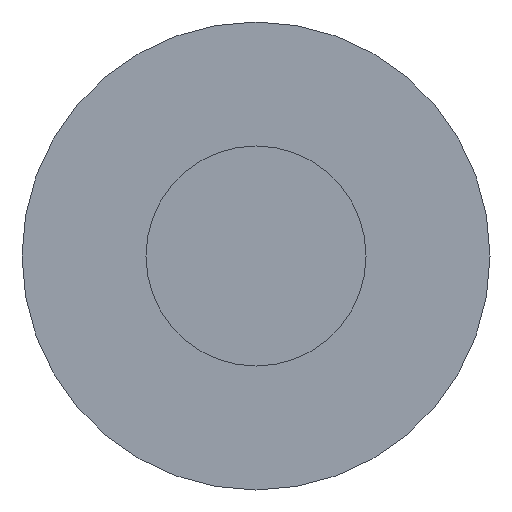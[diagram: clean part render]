
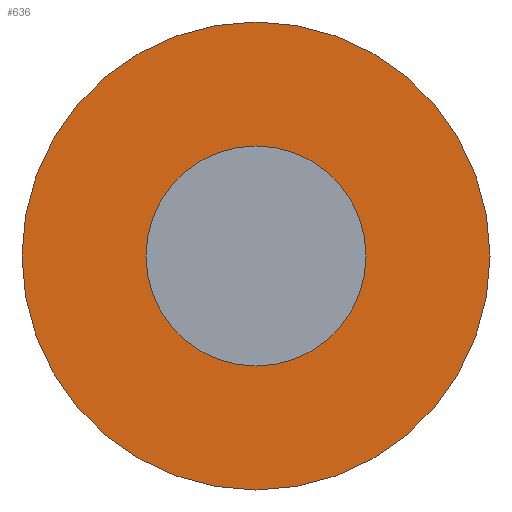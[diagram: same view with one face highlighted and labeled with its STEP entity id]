
A CAD part, front view. The second image highlights one B-rep face of the part: STEP entity #636.
In plain terms, the highlighted planar face has unit normal (0, -1, 0).
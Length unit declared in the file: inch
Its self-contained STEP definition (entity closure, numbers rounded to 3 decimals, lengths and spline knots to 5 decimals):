
#213=CARTESIAN_POINT('',(0.,-0.015,0.));
#214=DIRECTION('',(0.,-1.,0.));
#215=DIRECTION('',(1.,0.,0.));
#216=AXIS2_PLACEMENT_3D('',#213,#214,#215);
#218=CARTESIAN_POINT('',(0.,-0.015,0.));
#219=DIRECTION('',(0.,-1.,0.));
#220=DIRECTION('',(-1.,0.,0.));
#221=AXIS2_PLACEMENT_3D('',#218,#219,#220);
#223=CARTESIAN_POINT('',(0.,-0.015,0.));
#224=DIRECTION('',(0.,-1.,0.));
#225=DIRECTION('',(1.,0.,0.));
#226=AXIS2_PLACEMENT_3D('',#223,#224,#225);
#228=CARTESIAN_POINT('',(0.,-0.015,0.));
#229=DIRECTION('',(0.,-1.,0.));
#230=DIRECTION('',(-1.,0.,0.));
#231=AXIS2_PLACEMENT_3D('',#228,#229,#230);
#577=CARTESIAN_POINT('',(0.202,-0.015,0.));
#578=CARTESIAN_POINT('',(-0.202,-0.015,0.));
#579=VERTEX_POINT('',#577);
#580=VERTEX_POINT('',#578);
#581=CARTESIAN_POINT('',(0.095,-0.015,0.));
#582=CARTESIAN_POINT('',(-0.095,-0.015,0.));
#583=VERTEX_POINT('',#581);
#584=VERTEX_POINT('',#582);
#620=CARTESIAN_POINT('',(0.,-0.015,0.));
#621=DIRECTION('',(0.,-1.,0.));
#622=DIRECTION('',(1.,0.,0.));
#623=AXIS2_PLACEMENT_3D('',#620,#621,#622);
#624=PLANE('',#623);
#626=ORIENTED_EDGE('',*,*,#625,.F.);
#628=ORIENTED_EDGE('',*,*,#627,.F.);
#629=EDGE_LOOP('',(#626,#628));
#630=FACE_OUTER_BOUND('',#629,.F.);
#631=ORIENTED_EDGE('',*,*,#610,.T.);
#633=ORIENTED_EDGE('',*,*,#632,.T.);
#634=EDGE_LOOP('',(#631,#633));
#635=FACE_BOUND('',#634,.F.);
#217=CIRCLE('',#216,0.202);
#222=CIRCLE('',#221,0.202);
#227=CIRCLE('',#226,0.095);
#232=CIRCLE('',#231,0.095);
#610=EDGE_CURVE('',#583,#584,#227,.T.);
#625=EDGE_CURVE('',#579,#580,#217,.T.);
#627=EDGE_CURVE('',#580,#579,#222,.T.);
#632=EDGE_CURVE('',#584,#583,#232,.T.);
#636=ADVANCED_FACE('',(#630,#635),#624,.T.);
